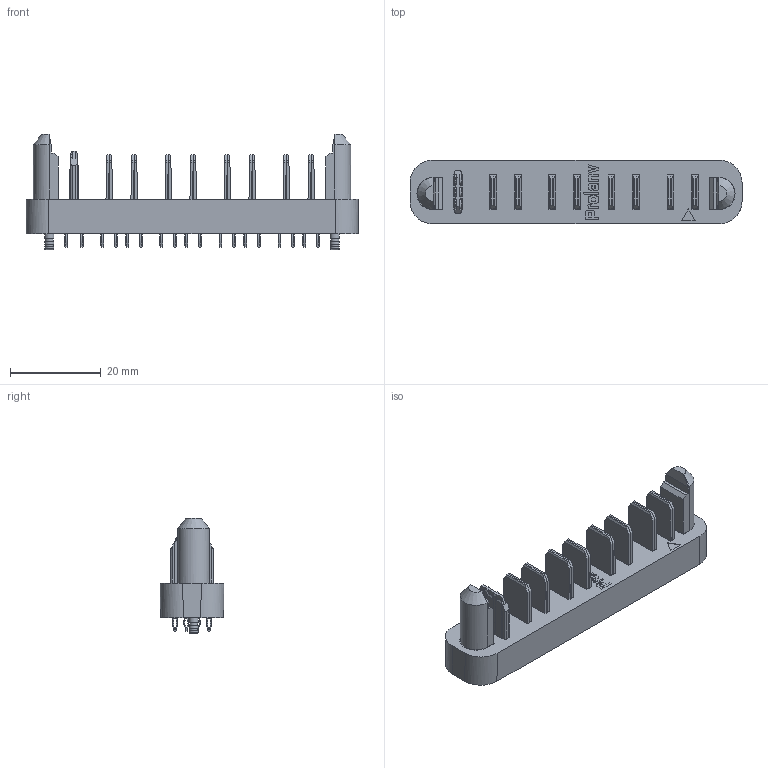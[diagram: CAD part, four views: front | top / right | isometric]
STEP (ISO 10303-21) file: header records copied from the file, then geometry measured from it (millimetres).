
FILE_DESCRIPTION(/* description */ (''),/* implementation_level */ '2;1');
FILE_NAME(/* name */ 'PDC1920F0002石头档(A1)20250508.stp',/* time_stamp */ '2025-05-08T18:24:03+08:00',/* author */ (''),/* organization */ (''),/* preprocessor_version */ 'ST-DEVELOPER v16.7',/* originating_system */ 'SIEMENS PLM Software NX 1946',/* authorisation */ '');
FILE_SCHEMA (('AUTOMOTIVE_DESIGN { 1 0 10303 214 3 1 1 1 }'));
Length unit declared in the file: millimetre
Products named in the file (1): PDC01＋02信号优化Ｘ0
Bounding box: 73.14 x 14.05 x 25.38 mm (x, y, z)
Volume: 8692.7 mm3; surface area: 8977.3 mm2
Topology: 1 solids, 1 shells, 4287 faces, 10907 edges, 6668 vertices
Faces by surface type: cylinder 1704, plane 1390, torus 1154, extrusion 31, cone 6, bspline 2
Full cylindrical faces by diameter (mm): 1.8 x4, 2 x6
Entity records: 156521 total; most frequent: DIRECTION 24481, CARTESIAN_POINT 23630, ORIENTED_EDGE 21790, EDGE_CURVE 10895, AXIS2_PLACEMENT_3D 9707, VERTEX_POINT 6668, VECTOR 5067, LINE 5036
